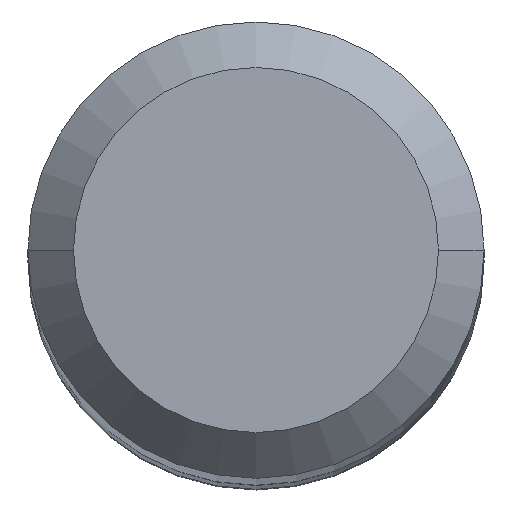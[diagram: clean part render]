
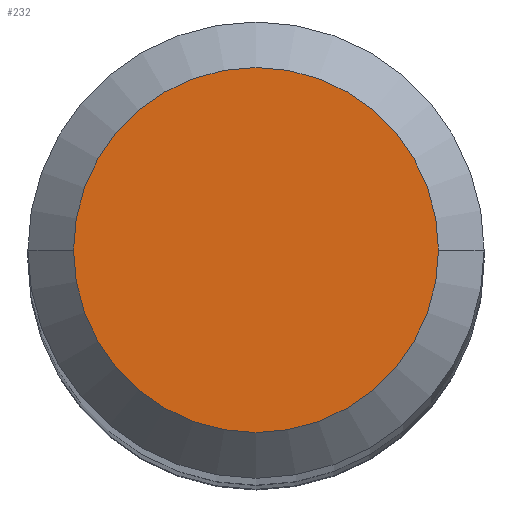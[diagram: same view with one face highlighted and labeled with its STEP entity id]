
A CAD part, top view. The second image highlights one B-rep face of the part: STEP entity #232.
In plain terms, the highlighted planar face has unit normal (0, 0, 1).
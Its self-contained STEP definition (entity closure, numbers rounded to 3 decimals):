
#27 = ORIENTED_EDGE ( 'NONE', *, *, #52, .F. ) ;
#52 = EDGE_CURVE ( 'NONE', #611, #510, #415, .T. ) ;
#136 = CIRCLE ( 'NONE', #168, 2.4 ) ;
#168 = AXIS2_PLACEMENT_3D ( 'NONE', #343, #589, #586 ) ;
#170 = FACE_OUTER_BOUND ( 'NONE', #267, .T. ) ;
#188 = CARTESIAN_POINT ( 'NONE',  ( 2.4, 0., 0. ) ) ;
#200 = CARTESIAN_POINT ( 'NONE',  ( -2.4, 0., 0. ) ) ;
#232 = ADVANCED_FACE ( 'NONE', ( #170 ), #625, .T. ) ;
#246 = DIRECTION ( 'NONE',  ( 0., 0., -1. ) ) ;
#267 = EDGE_LOOP ( 'NONE', ( #342, #27 ) ) ;
#292 = CARTESIAN_POINT ( 'NONE',  ( 0., 0., 0. ) ) ;
#342 = ORIENTED_EDGE ( 'NONE', *, *, #471, .F. ) ;
#343 = CARTESIAN_POINT ( 'NONE',  ( 0., 0., 0. ) ) ;
#373 = DIRECTION ( 'NONE',  ( 0., 0., 1. ) ) ;
#398 = DIRECTION ( 'NONE',  ( -1., 0., 0. ) ) ;
#403 = AXIS2_PLACEMENT_3D ( 'NONE', #292, #246, #398 ) ;
#415 = CIRCLE ( 'NONE', #403, 2.4 ) ;
#429 = DIRECTION ( 'NONE',  ( 1., 0., 0. ) ) ;
#471 = EDGE_CURVE ( 'NONE', #510, #611, #136, .T. ) ;
#510 = VERTEX_POINT ( 'NONE', #200 ) ;
#558 = AXIS2_PLACEMENT_3D ( 'NONE', #622, #373, #429 ) ;
#586 = DIRECTION ( 'NONE',  ( -1., 0., 0. ) ) ;
#589 = DIRECTION ( 'NONE',  ( 0., 0., -1. ) ) ;
#611 = VERTEX_POINT ( 'NONE', #188 ) ;
#622 = CARTESIAN_POINT ( 'NONE',  ( 0., 2.4, 0. ) ) ;
#625 = PLANE ( 'NONE',  #558 ) ;
